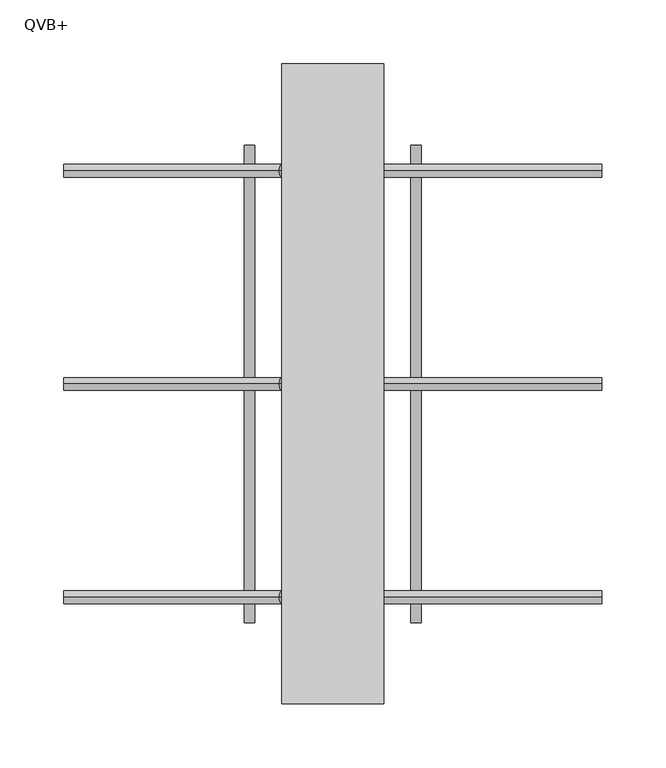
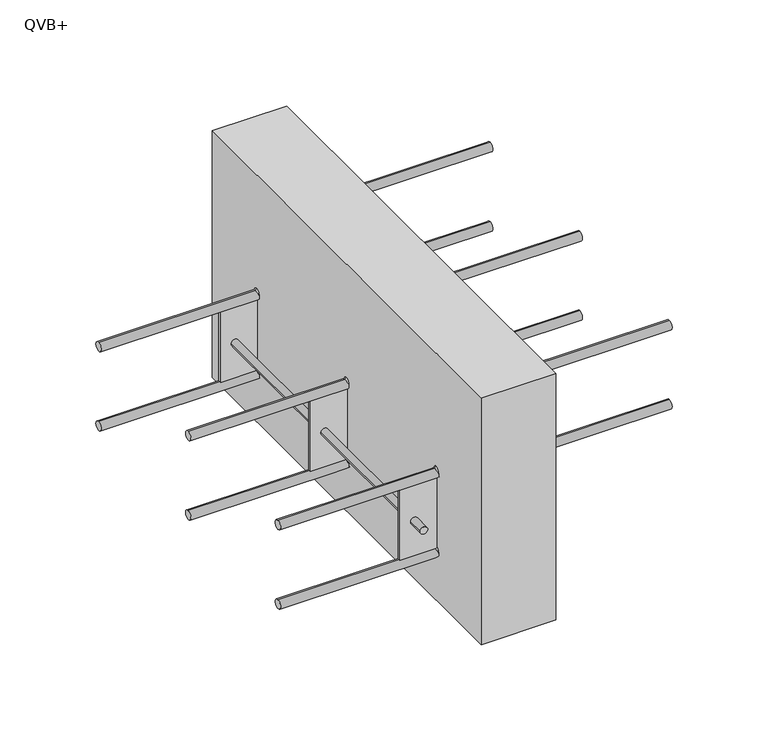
"""IFC4 building model written with IfcOpenShell, lengths in millimetres: proxy geometry, ACINOXplus_Typenreihe_QV : QVB+."""

from ifc_helpers import new_model, si_unit, point, frame, frame_2d, origin, place, context, project, spatial, polyline, circle_curve, ellipse_curve, trimmed, segment, composite_curve, outline, extrude, source, transform, mapped, element, save
from ifc_brep_helpers import plane_surface, cylinder_surface, advanced_brep


def qvb_742b25b6(model_context):
    return source(origin(), model_context, "Body", "SolidModel", [
        extrude(outline(polyline([(40.0, 250.0), (40.0, -250.0), (-40.0, -250.0), (-40.0, 250.0), (40.0, 250.0)])), frame((0.0, 0.0, -200.0), z_axis=(0.0, 0.0, 1.0), x_axis=(1.0, 0.0, 0.0)), (0.0, 0.0, 1.0), 280.0),
        extrude(outline(polyline([(-60.0, -40.0), (-60.0, -80.0), (-140.0, -80.0), (-140.0, -40.0), (-60.0, 40.0), (-60.0, 80.0), (20.0, 80.0), (20.0, 40.0), (-60.0, -40.0)])), frame((0.0, -1.5, 0.0), z_axis=(0.0, 1.0, 0.0), x_axis=(0.0, 0.0, 1.0)), (0.0, 0.0, 1.0), 3.0),
        extrude(outline(polyline([(-60.0, -40.0), (-60.0, -80.0), (-140.0, -80.0), (-140.0, -40.0), (-60.0, 40.0), (-60.0, 80.0), (20.0, 80.0), (20.0, 40.0), (-60.0, -40.0)])), frame((0.0, 165.1666667, 0.0), z_axis=(0.0, 1.0, 0.0), x_axis=(0.0, 0.0, 1.0)), (0.0, 0.0, 1.0), 3.0),
        extrude(outline(polyline([(-60.0, -40.0), (-60.0, -80.0), (-140.0, -80.0), (-140.0, -40.0), (-60.0, 40.0), (-60.0, 80.0), (20.0, 80.0), (20.0, 40.0), (-60.0, -40.0)])), frame((0.0, -168.1666667, 0.0), z_axis=(0.0, 1.0, 0.0), x_axis=(0.0, 0.0, 1.0)), (0.0, 0.0, 1.0), 3.0),
        extrude(outline(composite_curve([segment(trimmed(circle_curve(frame_2d((-100.0, -65.0)), 4.0), [point((-100.0, -69.0))], [point((-100.0, -61.0))], False, "CARTESIAN"), True, "CONTINUOUS"), segment(trimmed(circle_curve(frame_2d((-100.0, -65.0)), 4.0), [point((-100.0, -61.0))], [point((-100.0, -69.0))], False, "CARTESIAN"), True, "CONTINUOUS")], self_intersect=False)), frame((0.0, 168.1666667, 0.0), z_axis=(0.0, 1.0, 0.0), x_axis=(0.0, 0.0, 1.0)), (0.0, 0.0, 1.0), 18.5),
        extrude(outline(composite_curve([segment(trimmed(circle_curve(frame_2d((-100.0, -65.0)), 4.0), [point((-100.0, -61.0))], [point((-100.0, -69.0))], False, "CARTESIAN"), True, "CONTINUOUS"), segment(trimmed(circle_curve(frame_2d((-100.0, -65.0)), 4.0), [point((-100.0, -69.0))], [point((-100.0, -61.0))], False, "CARTESIAN"), True, "CONTINUOUS")], self_intersect=False)), frame((0.0, -186.6666667, 0.0), z_axis=(0.0, 1.0, 0.0), x_axis=(0.0, 0.0, 1.0)), (0.0, 0.0, 1.0), 18.5),
        extrude(outline(composite_curve([segment(trimmed(circle_curve(frame_2d((-100.0, -65.0)), 4.0), [point((-100.0, -69.0))], [point((-100.0, -61.0))], False, "CARTESIAN"), True, "CONTINUOUS"), segment(trimmed(circle_curve(frame_2d((-100.0, -65.0)), 4.0), [point((-100.0, -61.0))], [point((-100.0, -69.0))], False, "CARTESIAN"), True, "CONTINUOUS")], self_intersect=False)), frame((0.0, -165.1666667, 0.0), z_axis=(0.0, 1.0, 0.0), x_axis=(0.0, 0.0, 1.0)), (0.0, 0.0, 1.0), 163.6666667),
        extrude(outline(composite_curve([segment(trimmed(circle_curve(frame_2d((-100.0, -65.0)), 4.0), [point((-100.0, -69.0))], [point((-100.0, -61.0))], False, "CARTESIAN"), True, "CONTINUOUS"), segment(trimmed(circle_curve(frame_2d((-100.0, -65.0)), 4.0), [point((-100.0, -61.0))], [point((-100.0, -69.0))], False, "CARTESIAN"), True, "CONTINUOUS")], self_intersect=False)), frame((0.0, 1.5, 0.0), z_axis=(0.0, 1.0, 0.0), x_axis=(0.0, 0.0, 1.0)), (0.0, 0.0, 1.0), 163.6666667),
        extrude(outline(composite_curve([segment(trimmed(circle_curve(frame_2d((-20.0, 65.0)), 4.0), [point((-20.0, 61.0))], [point((-20.0, 69.0))], False, "CARTESIAN"), True, "CONTINUOUS"), segment(trimmed(circle_curve(frame_2d((-20.0, 65.0)), 4.0), [point((-20.0, 69.0))], [point((-20.0, 61.0))], False, "CARTESIAN"), True, "CONTINUOUS")], self_intersect=False)), frame((0.0, 168.1666667, 0.0), z_axis=(0.0, 1.0, 0.0), x_axis=(0.0, 0.0, 1.0)), (0.0, 0.0, 1.0), 18.5),
        extrude(outline(composite_curve([segment(trimmed(circle_curve(frame_2d((-20.0, 65.0)), 4.0), [point((-20.0, 69.0))], [point((-20.0, 61.0))], False, "CARTESIAN"), True, "CONTINUOUS"), segment(trimmed(circle_curve(frame_2d((-20.0, 65.0)), 4.0), [point((-20.0, 61.0))], [point((-20.0, 69.0))], False, "CARTESIAN"), True, "CONTINUOUS")], self_intersect=False)), frame((0.0, -186.6666667, 0.0), z_axis=(0.0, 1.0, 0.0), x_axis=(0.0, 0.0, 1.0)), (0.0, 0.0, 1.0), 18.5),
        extrude(outline(composite_curve([segment(trimmed(circle_curve(frame_2d((-20.0, 65.0)), 4.0), [point((-20.0, 61.0))], [point((-20.0, 69.0))], False, "CARTESIAN"), True, "CONTINUOUS"), segment(trimmed(circle_curve(frame_2d((-20.0, 65.0)), 4.0), [point((-20.0, 69.0))], [point((-20.0, 61.0))], False, "CARTESIAN"), True, "CONTINUOUS")], self_intersect=False)), frame((0.0, -165.1666667, 0.0), z_axis=(0.0, 1.0, 0.0), x_axis=(0.0, 0.0, 1.0)), (0.0, 0.0, 1.0), 163.6666667),
        extrude(outline(composite_curve([segment(trimmed(circle_curve(frame_2d((-20.0, 65.0)), 4.0), [point((-20.0, 61.0))], [point((-20.0, 69.0))], False, "CARTESIAN"), True, "CONTINUOUS"), segment(trimmed(circle_curve(frame_2d((-20.0, 65.0)), 4.0), [point((-20.0, 69.0))], [point((-20.0, 61.0))], False, "CARTESIAN"), True, "CONTINUOUS")], self_intersect=False)), frame((0.0, 1.5, 0.0), z_axis=(0.0, 1.0, 0.0), x_axis=(0.0, 0.0, 1.0)), (0.0, 0.0, 1.0), 163.6666667),
        advanced_brep(
        [(-210.0, 0.0, -150.0), (-210.0, 0.0, -140.0), (-37.9289322, 0.0, -150.0), (-42.0710678, 0.0, -140.0), (42.0710678, 0.0, -70.0), (37.9289322, 0.0, -60.0), (210.0, 0.0, -70.0), (210.0, 0.0, -60.0)],
        [
            (0, 1, circle_curve(frame((-210.0, 0.0, -145.0), z_axis=(-1.0, 0.0, 0.0), x_axis=(0.0, 0.0, 1.0)), 5.0)),
            (1, 0, circle_curve(frame((-210.0, 0.0, -145.0), z_axis=(-1.0, 0.0, 0.0), x_axis=(0.0, 0.0, 1.0)), 5.0)),
            (0, 2),
            (2, 3, ellipse_curve(frame((-40.0, 0.0, -145.0), z_axis=(-0.9238795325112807, 0.0, -0.38268343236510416), x_axis=(-0.38268343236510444, 0.0, 0.9238795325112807)), 5.411961, 5.0)),
            (3, 1),
            (3, 2, ellipse_curve(frame((-40.0, 0.0, -145.0), z_axis=(-0.9238795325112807, 0.0, -0.38268343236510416), x_axis=(-0.38268343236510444, 0.0, 0.9238795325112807)), 5.411961, 5.0)),
            (2, 4),
            (4, 5, ellipse_curve(frame((40.0, 0.0, -65.0), z_axis=(-0.9238795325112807, 0.0, -0.38268343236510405), x_axis=(0.3826834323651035, 0.0, -0.923879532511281)), 5.411961, 5.0)),
            (5, 3),
            (5, 4, ellipse_curve(frame((40.0, 0.0, -65.0), z_axis=(-0.9238795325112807, 0.0, -0.38268343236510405), x_axis=(0.3826834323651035, 0.0, -0.923879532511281)), 5.411961, 5.0)),
            (6, 7, circle_curve(frame((210.0, 0.0, -65.0), z_axis=(1.0, 0.0, 0.0), x_axis=(0.0, 0.0, 1.0)), 5.0)),
            (7, 6, circle_curve(frame((210.0, 0.0, -65.0), z_axis=(1.0, 0.0, 0.0), x_axis=(0.0, 0.0, 1.0)), 5.0)),
            (4, 6),
            (7, 5),
        ],
        [
            plane_surface(frame((-210.0, 0.0, -145.0), z_axis=(-1.0, 0.0, 0.0), x_axis=(0.0, -1.0, 0.0))),
            cylinder_surface(frame((-210.0, 0.0, -145.0), z_axis=(-1.0, 0.0, 0.0), x_axis=(0.0, 0.0, 1.0)), 5.0),
            cylinder_surface(frame((-40.0, 0.0, -145.0), z_axis=(-0.7071067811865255, 0.0, -0.7071067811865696), x_axis=(-0.7071067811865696, 0.0, 0.7071067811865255)), 5.0),
            plane_surface(frame((210.0, 0.0, -65.0), z_axis=(1.0, 0.0, 0.0), x_axis=(0.0, -1.0, 0.0))),
            cylinder_surface(frame((40.0, 0.0, -65.0), z_axis=(-1.0, 0.0, 0.0), x_axis=(0.0, 0.0, 1.0)), 5.0),
        ],
        [
            (0, [[1, 2]]),
            (1, [[-1, 3, 4, 5]]),
            (1, [[-2, -5, 6, -3]]),
            (2, [[-4, 7, 8, 9]]),
            (2, [[-6, -9, 10, -7]]),
            (3, [[11, 12]]),
            (4, [[-8, 13, -12, 14]]),
            (4, [[-10, -14, -11, -13]]),
        ],
    ),
        advanced_brep(
        [(-210.0, 0.0, -150.0), (-210.0, 0.0, -140.0), (-37.9289322, 0.0, -150.0), (-42.0710678, 0.0, -140.0), (42.0710678, 0.0, -70.0), (37.9289322, 0.0, -60.0), (210.0, 0.0, -70.0), (210.0, 0.0, -60.0)],
        [
            (0, 1, circle_curve(frame((-210.0, 0.0, -145.0), z_axis=(-1.0, 0.0, 0.0), x_axis=(0.0, 0.0, 1.0)), 5.0)),
            (1, 0, circle_curve(frame((-210.0, 0.0, -145.0), z_axis=(-1.0, 0.0, 0.0), x_axis=(0.0, 0.0, 1.0)), 5.0)),
            (0, 2),
            (2, 3, ellipse_curve(frame((-40.0, 0.0, -145.0), z_axis=(-0.9238795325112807, 0.0, -0.38268343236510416), x_axis=(-0.38268343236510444, 0.0, 0.9238795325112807)), 5.411961, 5.0)),
            (3, 1),
            (3, 2, ellipse_curve(frame((-40.0, 0.0, -145.0), z_axis=(-0.9238795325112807, 0.0, -0.38268343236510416), x_axis=(-0.38268343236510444, 0.0, 0.9238795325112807)), 5.411961, 5.0)),
            (2, 4),
            (4, 5, ellipse_curve(frame((40.0, 0.0, -65.0), z_axis=(-0.9238795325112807, 0.0, -0.38268343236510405), x_axis=(0.3826834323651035, 0.0, -0.923879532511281)), 5.411961, 5.0)),
            (5, 3),
            (5, 4, ellipse_curve(frame((40.0, 0.0, -65.0), z_axis=(-0.9238795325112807, 0.0, -0.38268343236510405), x_axis=(0.3826834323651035, 0.0, -0.923879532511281)), 5.411961, 5.0)),
            (6, 7, circle_curve(frame((210.0, 0.0, -65.0), z_axis=(1.0, 0.0, 0.0), x_axis=(0.0, 0.0, 1.0)), 5.0)),
            (7, 6, circle_curve(frame((210.0, 0.0, -65.0), z_axis=(1.0, 0.0, 0.0), x_axis=(0.0, 0.0, 1.0)), 5.0)),
            (4, 6),
            (7, 5),
        ],
        [
            plane_surface(frame((-210.0, 0.0, -145.0), z_axis=(-1.0, 0.0, 0.0), x_axis=(0.0, -1.0, 0.0))),
            cylinder_surface(frame((-210.0, 0.0, -145.0), z_axis=(-1.0, 0.0, 0.0), x_axis=(0.0, 0.0, 1.0)), 5.0),
            cylinder_surface(frame((-40.0, 0.0, -145.0), z_axis=(-0.7071067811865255, 0.0, -0.7071067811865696), x_axis=(-0.7071067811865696, 0.0, 0.7071067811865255)), 5.0),
            plane_surface(frame((210.0, 0.0, -65.0), z_axis=(1.0, 0.0, 0.0), x_axis=(0.0, -1.0, 0.0))),
            cylinder_surface(frame((40.0, 0.0, -65.0), z_axis=(-1.0, 0.0, 0.0), x_axis=(0.0, 0.0, 1.0)), 5.0),
        ],
        [
            (0, [[1, 2]]),
            (1, [[-1, 3, 4, 5]]),
            (1, [[-2, -5, 6, -3]]),
            (2, [[-4, 7, 8, 9]]),
            (2, [[-6, -9, 10, -7]]),
            (3, [[11, 12]]),
            (4, [[-8, 13, -12, 14]]),
            (4, [[-10, -14, -11, -13]]),
        ],
    ),
        advanced_brep(
        [(-210.0, 166.6666667, -150.0), (-210.0, 166.6666667, -140.0), (-37.9289322, 166.6666667, -150.0), (-42.0710678, 166.6666667, -140.0), (42.0710678, 166.6666667, -70.0), (37.9289322, 166.6666667, -60.0), (210.0, 166.6666667, -70.0), (210.0, 166.6666667, -60.0)],
        [
            (0, 1, circle_curve(frame((-210.0, 166.6666667, -145.0), z_axis=(-1.0, 0.0, 0.0), x_axis=(0.0, 0.0, 1.0)), 5.0)),
            (1, 0, circle_curve(frame((-210.0, 166.6666667, -145.0), z_axis=(-1.0, 0.0, 0.0), x_axis=(0.0, 0.0, 1.0)), 5.0)),
            (0, 2),
            (2, 3, ellipse_curve(frame((-40.0, 166.6666667, -145.0), z_axis=(-0.9238795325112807, 0.0, -0.38268343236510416), x_axis=(-0.38268343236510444, 0.0, 0.9238795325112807)), 5.411961, 5.0)),
            (3, 1),
            (3, 2, ellipse_curve(frame((-40.0, 166.6666667, -145.0), z_axis=(-0.9238795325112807, 0.0, -0.38268343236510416), x_axis=(-0.38268343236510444, 0.0, 0.9238795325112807)), 5.411961, 5.0)),
            (2, 4),
            (4, 5, ellipse_curve(frame((40.0, 166.6666667, -65.0), z_axis=(-0.9238795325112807, 0.0, -0.38268343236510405), x_axis=(0.3826834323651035, 0.0, -0.923879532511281)), 5.411961, 5.0)),
            (5, 3),
            (5, 4, ellipse_curve(frame((40.0, 166.6666667, -65.0), z_axis=(-0.9238795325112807, 0.0, -0.38268343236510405), x_axis=(0.3826834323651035, 0.0, -0.923879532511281)), 5.411961, 5.0)),
            (6, 7, circle_curve(frame((210.0, 166.6666667, -65.0), z_axis=(1.0, 0.0, 0.0), x_axis=(0.0, 0.0, 1.0)), 5.0)),
            (7, 6, circle_curve(frame((210.0, 166.6666667, -65.0), z_axis=(1.0, 0.0, 0.0), x_axis=(0.0, 0.0, 1.0)), 5.0)),
            (4, 6),
            (7, 5),
        ],
        [
            plane_surface(frame((-210.0, 166.6666667, -145.0), z_axis=(-1.0, 0.0, 0.0), x_axis=(0.0, -1.0, 0.0))),
            cylinder_surface(frame((-210.0, 166.6666667, -145.0), z_axis=(-1.0, 0.0, 0.0), x_axis=(0.0, 0.0, 1.0)), 5.0),
            cylinder_surface(frame((-40.0, 166.6666667, -145.0), z_axis=(-0.7071067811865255, 0.0, -0.7071067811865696), x_axis=(-0.7071067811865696, 0.0, 0.7071067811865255)), 5.0),
            plane_surface(frame((210.0, 166.6666667, -65.0), z_axis=(1.0, 0.0, 0.0), x_axis=(0.0, -1.0, 0.0))),
            cylinder_surface(frame((40.0, 166.6666667, -65.0), z_axis=(-1.0, 0.0, 0.0), x_axis=(0.0, 0.0, 1.0)), 5.0),
        ],
        [
            (0, [[1, 2]]),
            (1, [[-1, 3, 4, 5]]),
            (1, [[-2, -5, 6, -3]]),
            (2, [[-4, 7, 8, 9]]),
            (2, [[-6, -9, 10, -7]]),
            (3, [[11, 12]]),
            (4, [[-8, 13, -12, 14]]),
            (4, [[-10, -14, -11, -13]]),
        ],
    ),
        advanced_brep(
        [(-210.0, 0.0, -150.0), (-210.0, 0.0, -140.0), (-37.9289322, 0.0, -150.0), (-42.0710678, 0.0, -140.0), (42.0710678, 0.0, -70.0), (37.9289322, 0.0, -60.0), (210.0, 0.0, -70.0), (210.0, 0.0, -60.0)],
        [
            (0, 1, circle_curve(frame((-210.0, 0.0, -145.0), z_axis=(-1.0, 0.0, 0.0), x_axis=(0.0, 0.0, 1.0)), 5.0)),
            (1, 0, circle_curve(frame((-210.0, 0.0, -145.0), z_axis=(-1.0, 0.0, 0.0), x_axis=(0.0, 0.0, 1.0)), 5.0)),
            (0, 2),
            (2, 3, ellipse_curve(frame((-40.0, 0.0, -145.0), z_axis=(-0.9238795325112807, 0.0, -0.38268343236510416), x_axis=(-0.38268343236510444, 0.0, 0.9238795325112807)), 5.411961, 5.0)),
            (3, 1),
            (3, 2, ellipse_curve(frame((-40.0, 0.0, -145.0), z_axis=(-0.9238795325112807, 0.0, -0.38268343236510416), x_axis=(-0.38268343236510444, 0.0, 0.9238795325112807)), 5.411961, 5.0)),
            (2, 4),
            (4, 5, ellipse_curve(frame((40.0, 0.0, -65.0), z_axis=(-0.9238795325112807, 0.0, -0.38268343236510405), x_axis=(0.3826834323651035, 0.0, -0.923879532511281)), 5.411961, 5.0)),
            (5, 3),
            (5, 4, ellipse_curve(frame((40.0, 0.0, -65.0), z_axis=(-0.9238795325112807, 0.0, -0.38268343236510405), x_axis=(0.3826834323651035, 0.0, -0.923879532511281)), 5.411961, 5.0)),
            (6, 7, circle_curve(frame((210.0, 0.0, -65.0), z_axis=(1.0, 0.0, 0.0), x_axis=(0.0, 0.0, 1.0)), 5.0)),
            (7, 6, circle_curve(frame((210.0, 0.0, -65.0), z_axis=(1.0, 0.0, 0.0), x_axis=(0.0, 0.0, 1.0)), 5.0)),
            (4, 6),
            (7, 5),
        ],
        [
            plane_surface(frame((-210.0, 0.0, -145.0), z_axis=(-1.0, 0.0, 0.0), x_axis=(0.0, -1.0, 0.0))),
            cylinder_surface(frame((-210.0, 0.0, -145.0), z_axis=(-1.0, 0.0, 0.0), x_axis=(0.0, 0.0, 1.0)), 5.0),
            cylinder_surface(frame((-40.0, 0.0, -145.0), z_axis=(-0.7071067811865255, 0.0, -0.7071067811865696), x_axis=(-0.7071067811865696, 0.0, 0.7071067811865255)), 5.0),
            plane_surface(frame((210.0, 0.0, -65.0), z_axis=(1.0, 0.0, 0.0), x_axis=(0.0, -1.0, 0.0))),
            cylinder_surface(frame((40.0, 0.0, -65.0), z_axis=(-1.0, 0.0, 0.0), x_axis=(0.0, 0.0, 1.0)), 5.0),
        ],
        [
            (0, [[1, 2]]),
            (1, [[-1, 3, 4, 5]]),
            (1, [[-2, -5, 6, -3]]),
            (2, [[-4, 7, 8, 9]]),
            (2, [[-6, -9, 10, -7]]),
            (3, [[11, 12]]),
            (4, [[-8, 13, -12, 14]]),
            (4, [[-10, -14, -11, -13]]),
        ],
    ),
        advanced_brep(
        [(-210.0, -166.6666667, -150.0), (-210.0, -166.6666667, -140.0), (-37.9289322, -166.6666667, -150.0), (-42.0710678, -166.6666667, -140.0), (42.0710678, -166.6666667, -70.0), (37.9289322, -166.6666667, -60.0), (210.0, -166.6666667, -70.0), (210.0, -166.6666667, -60.0)],
        [
            (0, 1, circle_curve(frame((-210.0, -166.6666667, -145.0), z_axis=(-1.0, 0.0, 0.0), x_axis=(0.0, 0.0, 1.0)), 5.0)),
            (1, 0, circle_curve(frame((-210.0, -166.6666667, -145.0), z_axis=(-1.0, 0.0, 0.0), x_axis=(0.0, 0.0, 1.0)), 5.0)),
            (0, 2),
            (2, 3, ellipse_curve(frame((-40.0, -166.6666667, -145.0), z_axis=(-0.9238795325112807, 0.0, -0.38268343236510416), x_axis=(-0.38268343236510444, 0.0, 0.9238795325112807)), 5.411961, 5.0)),
            (3, 1),
            (3, 2, ellipse_curve(frame((-40.0, -166.6666667, -145.0), z_axis=(-0.9238795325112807, 0.0, -0.38268343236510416), x_axis=(-0.38268343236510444, 0.0, 0.9238795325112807)), 5.411961, 5.0)),
            (2, 4),
            (4, 5, ellipse_curve(frame((40.0, -166.6666667, -65.0), z_axis=(-0.9238795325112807, 0.0, -0.38268343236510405), x_axis=(0.3826834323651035, 0.0, -0.923879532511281)), 5.411961, 5.0)),
            (5, 3),
            (5, 4, ellipse_curve(frame((40.0, -166.6666667, -65.0), z_axis=(-0.9238795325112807, 0.0, -0.38268343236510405), x_axis=(0.3826834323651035, 0.0, -0.923879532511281)), 5.411961, 5.0)),
            (6, 7, circle_curve(frame((210.0, -166.6666667, -65.0), z_axis=(1.0, 0.0, 0.0), x_axis=(0.0, 0.0, 1.0)), 5.0)),
            (7, 6, circle_curve(frame((210.0, -166.6666667, -65.0), z_axis=(1.0, 0.0, 0.0), x_axis=(0.0, 0.0, 1.0)), 5.0)),
            (4, 6),
            (7, 5),
        ],
        [
            plane_surface(frame((-210.0, -166.6666667, -145.0), z_axis=(-1.0, 0.0, 0.0), x_axis=(0.0, -1.0, 0.0))),
            cylinder_surface(frame((-210.0, -166.6666667, -145.0), z_axis=(-1.0, 0.0, 0.0), x_axis=(0.0, 0.0, 1.0)), 5.0),
            cylinder_surface(frame((-40.0, -166.6666667, -145.0), z_axis=(-0.7071067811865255, 0.0, -0.7071067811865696), x_axis=(-0.7071067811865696, 0.0, 0.7071067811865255)), 5.0),
            plane_surface(frame((210.0, -166.6666667, -65.0), z_axis=(1.0, 0.0, 0.0), x_axis=(0.0, -1.0, 0.0))),
            cylinder_surface(frame((40.0, -166.6666667, -65.0), z_axis=(-1.0, 0.0, 0.0), x_axis=(0.0, 0.0, 1.0)), 5.0),
        ],
        [
            (0, [[1, 2]]),
            (1, [[-1, 3, 4, 5]]),
            (1, [[-2, -5, 6, -3]]),
            (2, [[-4, 7, 8, 9]]),
            (2, [[-6, -9, 10, -7]]),
            (3, [[11, 12]]),
            (4, [[-8, 13, -12, 14]]),
            (4, [[-10, -14, -11, -13]]),
        ],
    ),
        advanced_brep(
        [(-210.0, 0.0, -60.0), (-210.0, 0.0, -50.0), (-37.9289322, 0.0, -60.0), (-42.0710678, 0.0, -50.0), (210.0, 0.0, 20.0), (210.0, 0.0, 30.0), (37.9289322, 0.0, 30.0), (42.0710678, 0.0, 20.0)],
        [
            (0, 1, circle_curve(frame((-210.0, 0.0, -55.0), z_axis=(-1.0, 0.0, 0.0), x_axis=(0.0, 0.0, 1.0)), 5.0)),
            (1, 0, circle_curve(frame((-210.0, 0.0, -55.0), z_axis=(-1.0, 0.0, 0.0), x_axis=(0.0, 0.0, 1.0)), 5.0)),
            (0, 2),
            (2, 3, ellipse_curve(frame((-40.0, 0.0, -55.0), z_axis=(-0.9238795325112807, 0.0, -0.3826834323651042), x_axis=(-0.38268343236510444, 0.0, 0.9238795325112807)), 5.411961, 5.0)),
            (3, 1),
            (3, 2, ellipse_curve(frame((-40.0, 0.0, -55.0), z_axis=(-0.9238795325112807, 0.0, -0.3826834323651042), x_axis=(-0.38268343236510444, 0.0, 0.9238795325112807)), 5.411961, 5.0)),
            (4, 5, circle_curve(frame((210.0, 0.0, 25.0), z_axis=(1.0, 0.0, 0.0), x_axis=(0.0, 0.0, 1.0)), 5.0)),
            (5, 4, circle_curve(frame((210.0, 0.0, 25.0), z_axis=(1.0, 0.0, 0.0), x_axis=(0.0, 0.0, 1.0)), 5.0)),
            (6, 7, ellipse_curve(frame((40.0, 0.0, 25.0), z_axis=(0.9238795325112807, 0.0, 0.3826834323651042), x_axis=(-0.38268343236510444, 0.0, 0.9238795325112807)), 5.411961, 5.0)),
            (7, 4),
            (5, 6),
            (7, 6, ellipse_curve(frame((40.0, 0.0, 25.0), z_axis=(0.9238795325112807, 0.0, 0.3826834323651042), x_axis=(-0.38268343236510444, 0.0, 0.9238795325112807)), 5.411961, 5.0)),
            (2, 7),
            (6, 3),
        ],
        [
            plane_surface(frame((-210.0, 0.0, -55.0), z_axis=(-1.0, 0.0, 0.0), x_axis=(0.0, -1.0, 0.0))),
            cylinder_surface(frame((-210.0, 0.0, -55.0), z_axis=(-1.0, 0.0, 0.0), x_axis=(0.0, 0.0, 1.0)), 5.0),
            plane_surface(frame((210.0, 0.0, 25.0), z_axis=(1.0, 0.0, 0.0), x_axis=(0.0, -1.0, 0.0))),
            cylinder_surface(frame((40.0, 0.0, 25.0), z_axis=(-1.0, 0.0, 0.0), x_axis=(0.0, 0.0, 1.0)), 5.0),
            cylinder_surface(frame((-40.0, 0.0, -55.0), z_axis=(-0.7071067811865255, 0.0, -0.7071067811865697), x_axis=(-0.7071067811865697, 0.0, 0.7071067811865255)), 5.0),
        ],
        [
            (0, [[1, 2]]),
            (1, [[-1, 3, 4, 5]]),
            (1, [[-2, -5, 6, -3]]),
            (2, [[7, 8]]),
            (3, [[9, 10, -8, 11]]),
            (3, [[12, -11, -7, -10]]),
            (4, [[-4, 13, -9, 14]]),
            (4, [[-6, -14, -12, -13]]),
        ],
    ),
        advanced_brep(
        [(-210.0, 0.0, -60.0), (-210.0, 0.0, -50.0), (-37.9289322, 0.0, -60.0), (-42.0710678, 0.0, -50.0), (210.0, 0.0, 20.0), (210.0, 0.0, 30.0), (37.9289322, 0.0, 30.0), (42.0710678, 0.0, 20.0)],
        [
            (0, 1, circle_curve(frame((-210.0, 0.0, -55.0), z_axis=(-1.0, 0.0, 0.0), x_axis=(0.0, 0.0, 1.0)), 5.0)),
            (1, 0, circle_curve(frame((-210.0, 0.0, -55.0), z_axis=(-1.0, 0.0, 0.0), x_axis=(0.0, 0.0, 1.0)), 5.0)),
            (0, 2),
            (2, 3, ellipse_curve(frame((-40.0, 0.0, -55.0), z_axis=(-0.9238795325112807, 0.0, -0.3826834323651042), x_axis=(-0.38268343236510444, 0.0, 0.9238795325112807)), 5.411961, 5.0)),
            (3, 1),
            (3, 2, ellipse_curve(frame((-40.0, 0.0, -55.0), z_axis=(-0.9238795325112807, 0.0, -0.3826834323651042), x_axis=(-0.38268343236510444, 0.0, 0.9238795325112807)), 5.411961, 5.0)),
            (4, 5, circle_curve(frame((210.0, 0.0, 25.0), z_axis=(1.0, 0.0, 0.0), x_axis=(0.0, 0.0, 1.0)), 5.0)),
            (5, 4, circle_curve(frame((210.0, 0.0, 25.0), z_axis=(1.0, 0.0, 0.0), x_axis=(0.0, 0.0, 1.0)), 5.0)),
            (6, 7, ellipse_curve(frame((40.0, 0.0, 25.0), z_axis=(0.9238795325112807, 0.0, 0.3826834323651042), x_axis=(-0.38268343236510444, 0.0, 0.9238795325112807)), 5.411961, 5.0)),
            (7, 4),
            (5, 6),
            (7, 6, ellipse_curve(frame((40.0, 0.0, 25.0), z_axis=(0.9238795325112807, 0.0, 0.3826834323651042), x_axis=(-0.38268343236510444, 0.0, 0.9238795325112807)), 5.411961, 5.0)),
            (2, 7),
            (6, 3),
        ],
        [
            plane_surface(frame((-210.0, 0.0, -55.0), z_axis=(-1.0, 0.0, 0.0), x_axis=(0.0, -1.0, 0.0))),
            cylinder_surface(frame((-210.0, 0.0, -55.0), z_axis=(-1.0, 0.0, 0.0), x_axis=(0.0, 0.0, 1.0)), 5.0),
            plane_surface(frame((210.0, 0.0, 25.0), z_axis=(1.0, 0.0, 0.0), x_axis=(0.0, -1.0, 0.0))),
            cylinder_surface(frame((40.0, 0.0, 25.0), z_axis=(-1.0, 0.0, 0.0), x_axis=(0.0, 0.0, 1.0)), 5.0),
            cylinder_surface(frame((-40.0, 0.0, -55.0), z_axis=(-0.7071067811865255, 0.0, -0.7071067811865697), x_axis=(-0.7071067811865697, 0.0, 0.7071067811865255)), 5.0),
        ],
        [
            (0, [[1, 2]]),
            (1, [[-1, 3, 4, 5]]),
            (1, [[-2, -5, 6, -3]]),
            (2, [[7, 8]]),
            (3, [[9, 10, -8, 11]]),
            (3, [[12, -11, -7, -10]]),
            (4, [[-4, 13, -9, 14]]),
            (4, [[-6, -14, -12, -13]]),
        ],
    ),
        advanced_brep(
        [(-210.0, 166.6666667, -60.0), (-210.0, 166.6666667, -50.0), (-37.9289322, 166.6666667, -60.0), (-42.0710678, 166.6666667, -50.0), (210.0, 166.6666667, 20.0), (210.0, 166.6666667, 30.0), (37.9289322, 166.6666667, 30.0), (42.0710678, 166.6666667, 20.0)],
        [
            (0, 1, circle_curve(frame((-210.0, 166.6666667, -55.0), z_axis=(-1.0, 0.0, 0.0), x_axis=(0.0, 0.0, 1.0)), 5.0)),
            (1, 0, circle_curve(frame((-210.0, 166.6666667, -55.0), z_axis=(-1.0, 0.0, 0.0), x_axis=(0.0, 0.0, 1.0)), 5.0)),
            (0, 2),
            (2, 3, ellipse_curve(frame((-40.0, 166.6666667, -55.0), z_axis=(-0.9238795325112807, 0.0, -0.3826834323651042), x_axis=(-0.38268343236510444, 0.0, 0.9238795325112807)), 5.411961, 5.0)),
            (3, 1),
            (3, 2, ellipse_curve(frame((-40.0, 166.6666667, -55.0), z_axis=(-0.9238795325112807, 0.0, -0.3826834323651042), x_axis=(-0.38268343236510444, 0.0, 0.9238795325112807)), 5.411961, 5.0)),
            (4, 5, circle_curve(frame((210.0, 166.6666667, 25.0), z_axis=(1.0, 0.0, 0.0), x_axis=(0.0, 0.0, 1.0)), 5.0)),
            (5, 4, circle_curve(frame((210.0, 166.6666667, 25.0), z_axis=(1.0, 0.0, 0.0), x_axis=(0.0, 0.0, 1.0)), 5.0)),
            (6, 7, ellipse_curve(frame((40.0, 166.6666667, 25.0), z_axis=(0.9238795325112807, 0.0, 0.3826834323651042), x_axis=(-0.38268343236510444, 0.0, 0.9238795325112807)), 5.411961, 5.0)),
            (7, 4),
            (5, 6),
            (7, 6, ellipse_curve(frame((40.0, 166.6666667, 25.0), z_axis=(0.9238795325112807, 0.0, 0.3826834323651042), x_axis=(-0.38268343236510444, 0.0, 0.9238795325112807)), 5.411961, 5.0)),
            (2, 7),
            (6, 3),
        ],
        [
            plane_surface(frame((-210.0, 166.6666667, -55.0), z_axis=(-1.0, 0.0, 0.0), x_axis=(0.0, -1.0, 0.0))),
            cylinder_surface(frame((-210.0, 166.6666667, -55.0), z_axis=(-1.0, 0.0, 0.0), x_axis=(0.0, 0.0, 1.0)), 5.0),
            plane_surface(frame((210.0, 166.6666667, 25.0), z_axis=(1.0, 0.0, 0.0), x_axis=(0.0, -1.0, 0.0))),
            cylinder_surface(frame((40.0, 166.6666667, 25.0), z_axis=(-1.0, 0.0, 0.0), x_axis=(0.0, 0.0, 1.0)), 5.0),
            cylinder_surface(frame((-40.0, 166.6666667, -55.0), z_axis=(-0.7071067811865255, 0.0, -0.7071067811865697), x_axis=(-0.7071067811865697, 0.0, 0.7071067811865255)), 5.0),
        ],
        [
            (0, [[1, 2]]),
            (1, [[-1, 3, 4, 5]]),
            (1, [[-2, -5, 6, -3]]),
            (2, [[7, 8]]),
            (3, [[9, 10, -8, 11]]),
            (3, [[12, -11, -7, -10]]),
            (4, [[-4, 13, -9, 14]]),
            (4, [[-6, -14, -12, -13]]),
        ],
    ),
        advanced_brep(
        [(-210.0, 0.0, -60.0), (-210.0, 0.0, -50.0), (-37.9289322, 0.0, -60.0), (-42.0710678, 0.0, -50.0), (210.0, 0.0, 20.0), (210.0, 0.0, 30.0), (37.9289322, 0.0, 30.0), (42.0710678, 0.0, 20.0)],
        [
            (0, 1, circle_curve(frame((-210.0, 0.0, -55.0), z_axis=(-1.0, 0.0, 0.0), x_axis=(0.0, 0.0, 1.0)), 5.0)),
            (1, 0, circle_curve(frame((-210.0, 0.0, -55.0), z_axis=(-1.0, 0.0, 0.0), x_axis=(0.0, 0.0, 1.0)), 5.0)),
            (0, 2),
            (2, 3, ellipse_curve(frame((-40.0, 0.0, -55.0), z_axis=(-0.9238795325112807, 0.0, -0.3826834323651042), x_axis=(-0.38268343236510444, 0.0, 0.9238795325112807)), 5.411961, 5.0)),
            (3, 1),
            (3, 2, ellipse_curve(frame((-40.0, 0.0, -55.0), z_axis=(-0.9238795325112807, 0.0, -0.3826834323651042), x_axis=(-0.38268343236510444, 0.0, 0.9238795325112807)), 5.411961, 5.0)),
            (4, 5, circle_curve(frame((210.0, 0.0, 25.0), z_axis=(1.0, 0.0, 0.0), x_axis=(0.0, 0.0, 1.0)), 5.0)),
            (5, 4, circle_curve(frame((210.0, 0.0, 25.0), z_axis=(1.0, 0.0, 0.0), x_axis=(0.0, 0.0, 1.0)), 5.0)),
            (6, 7, ellipse_curve(frame((40.0, 0.0, 25.0), z_axis=(0.9238795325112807, 0.0, 0.3826834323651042), x_axis=(-0.38268343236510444, 0.0, 0.9238795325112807)), 5.411961, 5.0)),
            (7, 4),
            (5, 6),
            (7, 6, ellipse_curve(frame((40.0, 0.0, 25.0), z_axis=(0.9238795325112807, 0.0, 0.3826834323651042), x_axis=(-0.38268343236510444, 0.0, 0.9238795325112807)), 5.411961, 5.0)),
            (2, 7),
            (6, 3),
        ],
        [
            plane_surface(frame((-210.0, 0.0, -55.0), z_axis=(-1.0, 0.0, 0.0), x_axis=(0.0, -1.0, 0.0))),
            cylinder_surface(frame((-210.0, 0.0, -55.0), z_axis=(-1.0, 0.0, 0.0), x_axis=(0.0, 0.0, 1.0)), 5.0),
            plane_surface(frame((210.0, 0.0, 25.0), z_axis=(1.0, 0.0, 0.0), x_axis=(0.0, -1.0, 0.0))),
            cylinder_surface(frame((40.0, 0.0, 25.0), z_axis=(-1.0, 0.0, 0.0), x_axis=(0.0, 0.0, 1.0)), 5.0),
            cylinder_surface(frame((-40.0, 0.0, -55.0), z_axis=(-0.7071067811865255, 0.0, -0.7071067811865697), x_axis=(-0.7071067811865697, 0.0, 0.7071067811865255)), 5.0),
        ],
        [
            (0, [[1, 2]]),
            (1, [[-1, 3, 4, 5]]),
            (1, [[-2, -5, 6, -3]]),
            (2, [[7, 8]]),
            (3, [[9, 10, -8, 11]]),
            (3, [[12, -11, -7, -10]]),
            (4, [[-4, 13, -9, 14]]),
            (4, [[-6, -14, -12, -13]]),
        ],
    ),
        advanced_brep(
        [(-210.0, -166.6666667, -60.0), (-210.0, -166.6666667, -50.0), (-37.9289322, -166.6666667, -60.0), (-42.0710678, -166.6666667, -50.0), (210.0, -166.6666667, 20.0), (210.0, -166.6666667, 30.0), (37.9289322, -166.6666667, 30.0), (42.0710678, -166.6666667, 20.0)],
        [
            (0, 1, circle_curve(frame((-210.0, -166.6666667, -55.0), z_axis=(-1.0, 0.0, 0.0), x_axis=(0.0, 0.0, 1.0)), 5.0)),
            (1, 0, circle_curve(frame((-210.0, -166.6666667, -55.0), z_axis=(-1.0, 0.0, 0.0), x_axis=(0.0, 0.0, 1.0)), 5.0)),
            (0, 2),
            (2, 3, ellipse_curve(frame((-40.0, -166.6666667, -55.0), z_axis=(-0.9238795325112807, 0.0, -0.3826834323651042), x_axis=(-0.38268343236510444, 0.0, 0.9238795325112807)), 5.411961, 5.0)),
            (3, 1),
            (3, 2, ellipse_curve(frame((-40.0, -166.6666667, -55.0), z_axis=(-0.9238795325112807, 0.0, -0.3826834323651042), x_axis=(-0.38268343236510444, 0.0, 0.9238795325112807)), 5.411961, 5.0)),
            (4, 5, circle_curve(frame((210.0, -166.6666667, 25.0), z_axis=(1.0, 0.0, 0.0), x_axis=(0.0, 0.0, 1.0)), 5.0)),
            (5, 4, circle_curve(frame((210.0, -166.6666667, 25.0), z_axis=(1.0, 0.0, 0.0), x_axis=(0.0, 0.0, 1.0)), 5.0)),
            (6, 7, ellipse_curve(frame((40.0, -166.6666667, 25.0), z_axis=(0.9238795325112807, 0.0, 0.3826834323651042), x_axis=(-0.38268343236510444, 0.0, 0.9238795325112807)), 5.411961, 5.0)),
            (7, 4),
            (5, 6),
            (7, 6, ellipse_curve(frame((40.0, -166.6666667, 25.0), z_axis=(0.9238795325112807, 0.0, 0.3826834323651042), x_axis=(-0.38268343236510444, 0.0, 0.9238795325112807)), 5.411961, 5.0)),
            (2, 7),
            (6, 3),
        ],
        [
            plane_surface(frame((-210.0, -166.6666667, -55.0), z_axis=(-1.0, 0.0, 0.0), x_axis=(0.0, -1.0, 0.0))),
            cylinder_surface(frame((-210.0, -166.6666667, -55.0), z_axis=(-1.0, 0.0, 0.0), x_axis=(0.0, 0.0, 1.0)), 5.0),
            plane_surface(frame((210.0, -166.6666667, 25.0), z_axis=(1.0, 0.0, 0.0), x_axis=(0.0, -1.0, 0.0))),
            cylinder_surface(frame((40.0, -166.6666667, 25.0), z_axis=(-1.0, 0.0, 0.0), x_axis=(0.0, 0.0, 1.0)), 5.0),
            cylinder_surface(frame((-40.0, -166.6666667, -55.0), z_axis=(-0.7071067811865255, 0.0, -0.7071067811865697), x_axis=(-0.7071067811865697, 0.0, 0.7071067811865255)), 5.0),
        ],
        [
            (0, [[1, 2]]),
            (1, [[-1, 3, 4, 5]]),
            (1, [[-2, -5, 6, -3]]),
            (2, [[7, 8]]),
            (3, [[9, 10, -8, 11]]),
            (3, [[12, -11, -7, -10]]),
            (4, [[-4, 13, -9, 14]]),
            (4, [[-6, -14, -12, -13]]),
        ],
    ),
    ])


if __name__ == "__main__":
    model = new_model("IFC4")
    model_context = context("Model", 3, world=origin())
    ifc_project = project(units=[si_unit("LENGTHUNIT", "METRE", prefix="MILLI")], contexts=[model_context])
    site = spatial("IfcSite", under=ifc_project)
    building = spatial("IfcBuilding", under=site)
    placement = place(None, origin())
    qvb_shape = qvb_742b25b6(model_context)
    element("IfcBuildingElementProxy", 1, Name="ACINOXplus_Typenreihe_QV : QVB+", ObjectType="ACINOXplus_Typenreihe_QV : QVB+", at=placement, inside=building, context=model_context, shape_type="MappedRepresentation", body=[
        mapped(qvb_shape, transform((0.0, 0.0, 0.0), x_axis=(1.0, 0.0, 0.0), y_axis=(0.0, 1.0, 0.0), z_axis=(0.0, 0.0, 1.0))),
    ])
    save(model, "model.ifc")
